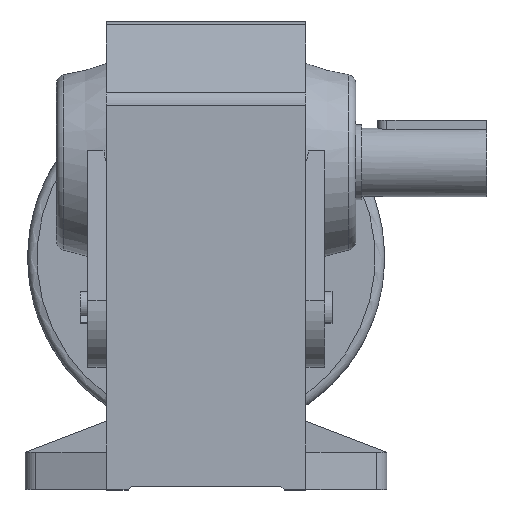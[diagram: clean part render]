
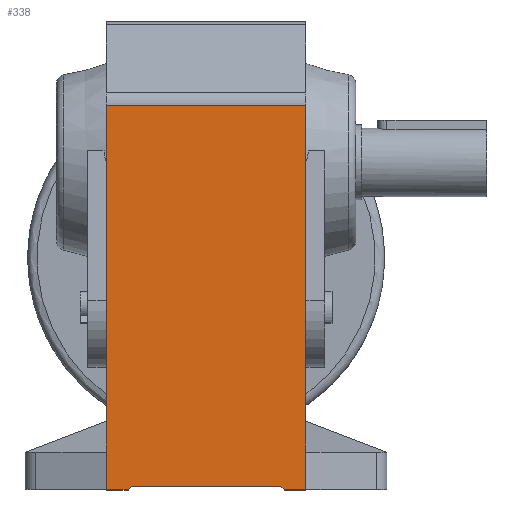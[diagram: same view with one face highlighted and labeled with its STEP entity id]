
A CAD part, top view. The second image highlights one B-rep face of the part: STEP entity #338.
In plain terms, the highlighted planar face has unit normal (0, 0, 1).
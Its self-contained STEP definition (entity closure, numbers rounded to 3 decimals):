
#338 = ADVANCED_FACE( '', ( #728 ), #729, .F. );
#728 = FACE_OUTER_BOUND( '', #1253, .T. );
#729 = PLANE( '', #1254 );
#1253 = EDGE_LOOP( '', ( #2561, #2562, #2563, #2564, #2565, #2566, #2567, #2568, #2569, #2570 ) );
#1254 = AXIS2_PLACEMENT_3D( '', #2571, #2572, #2573 );
#2561 = ORIENTED_EDGE( '', *, *, #3475, .F. );
#2562 = ORIENTED_EDGE( '', *, *, #3469, .F. );
#2563 = ORIENTED_EDGE( '', *, *, #3473, .F. );
#2564 = ORIENTED_EDGE( '', *, *, #3663, .F. );
#2565 = ORIENTED_EDGE( '', *, *, #3510, .F. );
#2566 = ORIENTED_EDGE( '', *, *, #3344, .F. );
#2567 = ORIENTED_EDGE( '', *, *, #3664, .T. );
#2568 = ORIENTED_EDGE( '', *, *, #3354, .T. );
#2569 = ORIENTED_EDGE( '', *, *, #3484, .T. );
#2570 = ORIENTED_EDGE( '', *, *, #3665, .F. );
#2571 = CARTESIAN_POINT( '', ( 32., 18.201, 53. ) );
#2572 = DIRECTION( '', ( 0., 0., -1. ) );
#2573 = DIRECTION( '', ( -1., 0., 0. ) );
#3344 = EDGE_CURVE( '', #3940, #3942, #3943, .T. );
#3354 = EDGE_CURVE( '', #3962, #3960, #3963, .T. );
#3469 = EDGE_CURVE( '', #4163, #4165, #4166, .T. );
#3473 = EDGE_CURVE( '', #4170, #4163, #4172, .T. );
#3475 = EDGE_CURVE( '', #4165, #4175, #4176, .T. );
#3484 = EDGE_CURVE( '', #3960, #4189, #4191, .T. );
#3510 = EDGE_CURVE( '', #3942, #4229, #4231, .T. );
#3663 = EDGE_CURVE( '', #4229, #4170, #4472, .T. );
#3664 = EDGE_CURVE( '', #3940, #3962, #4473, .T. );
#3665 = EDGE_CURVE( '', #4175, #4189, #4474, .T. );
#3940 = VERTEX_POINT( '', #4958 );
#3942 = VERTEX_POINT( '', #4960 );
#3943 = LINE( '', #4961, #4962 );
#3960 = VERTEX_POINT( '', #4984 );
#3962 = VERTEX_POINT( '', #4987 );
#3963 = LINE( '', #4988, #4989 );
#4163 = VERTEX_POINT( '', #5363 );
#4165 = VERTEX_POINT( '', #5366 );
#4166 = LINE( '', #5367, #5368 );
#4170 = VERTEX_POINT( '', #5374 );
#4172 = LINE( '', #5377, #5378 );
#4175 = VERTEX_POINT( '', #5382 );
#4176 = LINE( '', #5383, #5384 );
#4189 = VERTEX_POINT( '', #5403 );
#4191 = LINE( '', #5406, #5407 );
#4229 = VERTEX_POINT( '', #5462 );
#4231 = LINE( '', #5465, #5466 );
#4472 = LINE( '', #5845, #5846 );
#4473 = LINE( '', #5847, #5848 );
#4474 = LINE( '', #5849, #5850 );
#4958 = CARTESIAN_POINT( '', ( 32., 18.201, 53. ) );
#4960 = CARTESIAN_POINT( '', ( 32., -93., 53. ) );
#4961 = CARTESIAN_POINT( '', ( 32., 18.201, 53. ) );
#4962 = VECTOR( '', #6459, 1000. );
#4984 = CARTESIAN_POINT( '', ( -32., -93., 53. ) );
#4987 = CARTESIAN_POINT( '', ( -32., 18.201, 53. ) );
#4988 = CARTESIAN_POINT( '', ( -32., 18.201, 53. ) );
#4989 = VECTOR( '', #6475, 1000. );
#5363 = CARTESIAN_POINT( '', ( 24., -104., 53. ) );
#5366 = CARTESIAN_POINT( '', ( -24., -104., 53. ) );
#5367 = CARTESIAN_POINT( '', ( 32., -104., 53. ) );
#5368 = VECTOR( '', #6643, 1000. );
#5374 = CARTESIAN_POINT( '', ( 25., -105., 53. ) );
#5377 = CARTESIAN_POINT( '', ( -33.1, -46.9, 53. ) );
#5378 = VECTOR( '', #6647, 1000. );
#5382 = CARTESIAN_POINT( '', ( -25., -105., 53. ) );
#5383 = CARTESIAN_POINT( '', ( 65.1, -14.9, 53. ) );
#5384 = VECTOR( '', #6649, 1000. );
#5403 = CARTESIAN_POINT( '', ( -32., -105., 53. ) );
#5406 = CARTESIAN_POINT( '', ( -32., -93., 53. ) );
#5407 = VECTOR( '', #6660, 1000. );
#5462 = CARTESIAN_POINT( '', ( 32., -105., 53. ) );
#5465 = CARTESIAN_POINT( '', ( 32., -93., 53. ) );
#5466 = VECTOR( '', #6700, 1000. );
#5845 = CARTESIAN_POINT( '', ( 32., -105., 53. ) );
#5846 = VECTOR( '', #6881, 1000. );
#5847 = CARTESIAN_POINT( '', ( 32., 18.201, 53. ) );
#5848 = VECTOR( '', #6882, 1000. );
#5849 = CARTESIAN_POINT( '', ( 32., -105., 53. ) );
#5850 = VECTOR( '', #6883, 1000. );
#6459 = DIRECTION( '', ( 0., -1., 0. ) );
#6475 = DIRECTION( '', ( 0., -1., 0. ) );
#6643 = DIRECTION( '', ( -1., 0., 0. ) );
#6647 = DIRECTION( '', ( -0.707, 0.707, 0. ) );
#6649 = DIRECTION( '', ( -0.707, -0.707, 0. ) );
#6660 = DIRECTION( '', ( 0., -1., 0. ) );
#6700 = DIRECTION( '', ( 0., -1., 0. ) );
#6881 = DIRECTION( '', ( -1., 0., 0. ) );
#6882 = DIRECTION( '', ( -1., 0., 0. ) );
#6883 = DIRECTION( '', ( -1., 0., 0. ) );
